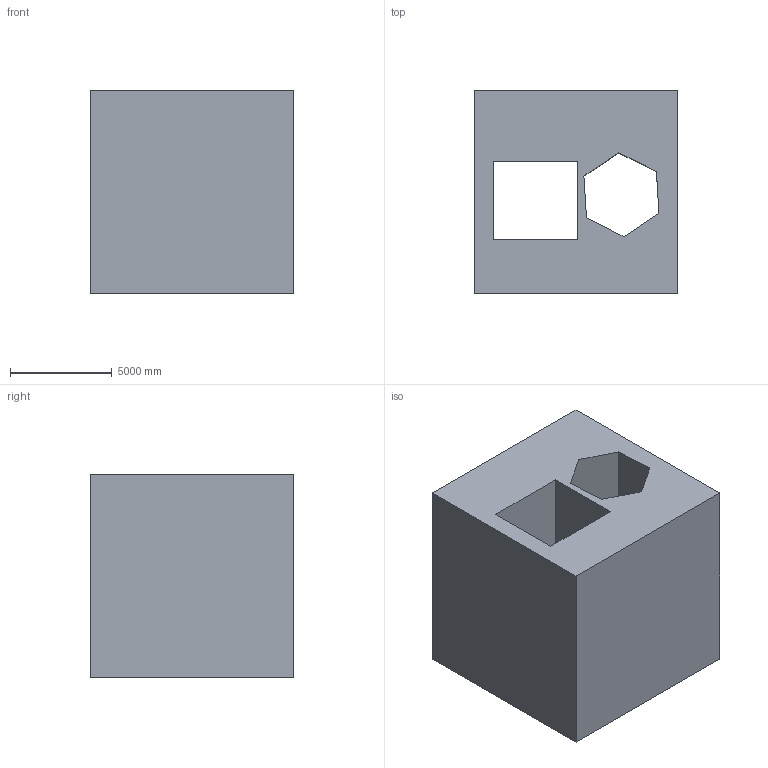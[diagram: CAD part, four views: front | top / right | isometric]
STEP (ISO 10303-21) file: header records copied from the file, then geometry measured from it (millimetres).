
FILE_DESCRIPTION (( 'STEP AP203' ), '1' );
FILE_NAME ('258.STEP', '2022-09-07T12:28:52', ( 'user' ), ( '' ), 'SwSTEP 2.0', 'SolidWorks 2021', '' );
FILE_SCHEMA (( 'CONFIG_CONTROL_DESIGN' ));
Length unit declared in the file: centimetre
Products named in the file (1): 258
Bounding box: 10000 x 10000 x 10000 mm (x, y, z)
Volume: 700878860050.3 mm3; surface area: 885131189.7 mm2
Topology: 1 solids, 1 shells, 22 faces, 54 edges, 36 vertices
Faces by surface type: plane 18, cylinder 4
Entity records: 731 total; most frequent: CARTESIAN_POINT 113, DIRECTION 108, ORIENTED_EDGE 108, EDGE_CURVE 54, VECTOR 46, LINE 46, VERTEX_POINT 36, AXIS2_PLACEMENT_3D 31
